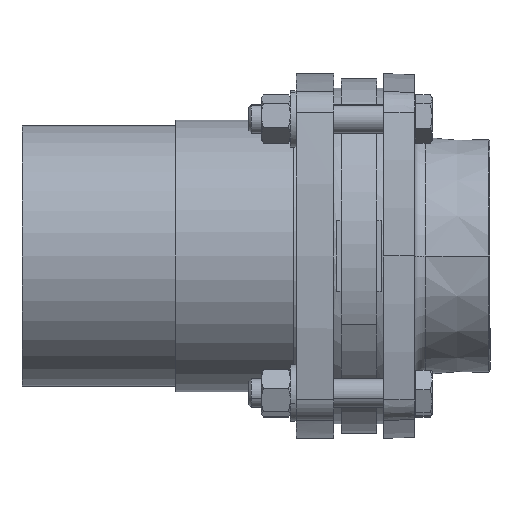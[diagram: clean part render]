
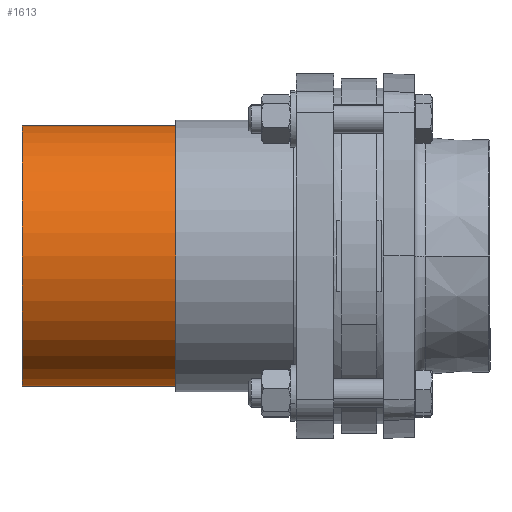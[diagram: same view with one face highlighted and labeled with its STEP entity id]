
A CAD part, front view. The second image highlights one B-rep face of the part: STEP entity #1613.
In plain terms, the highlighted cylindrical face has radius 55.25 mm (diameter 110.5 mm), a partial arc.
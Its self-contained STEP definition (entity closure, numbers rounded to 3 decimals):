
#242 = VERTEX_POINT ( 'NONE', #3944 ) ;
#244 = VERTEX_POINT ( 'NONE', #3946 ) ;
#246 = VERTEX_POINT ( 'NONE', #3948 ) ;
#265 = VERTEX_POINT ( 'NONE', #3967 ) ;
#1161 = EDGE_CURVE ( 'NONE', #265, #242, #2084, .T. ) ;
#1163 = EDGE_CURVE ( 'NONE', #246, #244, #2088, .T. ) ;
#1276 = EDGE_LOOP ( 'NONE', ( #5173, #5174, #5175, #5176 ) ) ;
#1613 = ADVANCED_FACE ( 'NONE', ( #3059 ), #3062, .T. ) ;
#1744 = EDGE_CURVE ( 'NONE', #246, #265, #6605, .T. ) ;
#1762 = EDGE_CURVE ( 'NONE', #244, #242, #6583, .T. ) ;
#2081 = CARTESIAN_POINT ( 'NONE',  ( -18., 0., -55.25 ) ) ;
#2083 = CARTESIAN_POINT ( 'NONE',  ( -18., 0., 55.25 ) ) ;
#2084 = LINE ( 'NONE', #2081, #5790 ) ;
#2088 = LINE ( 'NONE', #2083, #5794 ) ;
#2089 = DIRECTION ( 'NONE',  ( -1., 0., 0. ) ) ;
#2094 = DIRECTION ( 'NONE',  ( -1., 0., 0. ) ) ;
#2659 = AXIS2_PLACEMENT_3D ( 'NONE', #3060, #3048, #3063 ) ;
#3048 = DIRECTION ( 'NONE',  ( -1., 0., 0. ) ) ;
#3059 = FACE_OUTER_BOUND ( 'NONE', #1276, .T. ) ;
#3060 = CARTESIAN_POINT ( 'NONE',  ( -18., 0., 0. ) ) ;
#3062 = CYLINDRICAL_SURFACE ( 'NONE', #2659, 55.25 ) ;
#3063 = DIRECTION ( 'NONE',  ( 0., 0., 1. ) ) ;
#3632 = CARTESIAN_POINT ( 'NONE',  ( -18., 0., 0. ) ) ;
#3633 = DIRECTION ( 'NONE',  ( 1., 0., 0. ) ) ;
#3634 = DIRECTION ( 'NONE',  ( 0., 0., -1. ) ) ;
#3689 = CARTESIAN_POINT ( 'NONE',  ( -133., 0., 0. ) ) ;
#3690 = DIRECTION ( 'NONE',  ( 1., 0., 0. ) ) ;
#3691 = DIRECTION ( 'NONE',  ( 0., 0., -1. ) ) ;
#3944 = CARTESIAN_POINT ( 'NONE',  ( -133., 0., -55.25 ) ) ;
#3946 = CARTESIAN_POINT ( 'NONE',  ( -133., 0., 55.25 ) ) ;
#3948 = CARTESIAN_POINT ( 'NONE',  ( -18., 0., 55.25 ) ) ;
#3967 = CARTESIAN_POINT ( 'NONE',  ( -18., 0., -55.25 ) ) ;
#5173 = ORIENTED_EDGE ( 'NONE', *, *, #1161, .F. ) ;
#5174 = ORIENTED_EDGE ( 'NONE', *, *, #1744, .F. ) ;
#5175 = ORIENTED_EDGE ( 'NONE', *, *, #1163, .T. ) ;
#5176 = ORIENTED_EDGE ( 'NONE', *, *, #1762, .T. ) ;
#5790 = VECTOR ( 'NONE', #2089, 1000. ) ;
#5794 = VECTOR ( 'NONE', #2094, 1000. ) ;
#6583 = CIRCLE ( 'NONE', #6644, 55.25 ) ;
#6605 = CIRCLE ( 'NONE', #6608, 55.25 ) ;
#6608 = AXIS2_PLACEMENT_3D ( 'NONE', #3632, #3633, #3634 ) ;
#6644 = AXIS2_PLACEMENT_3D ( 'NONE', #3689, #3690, #3691 ) ;
